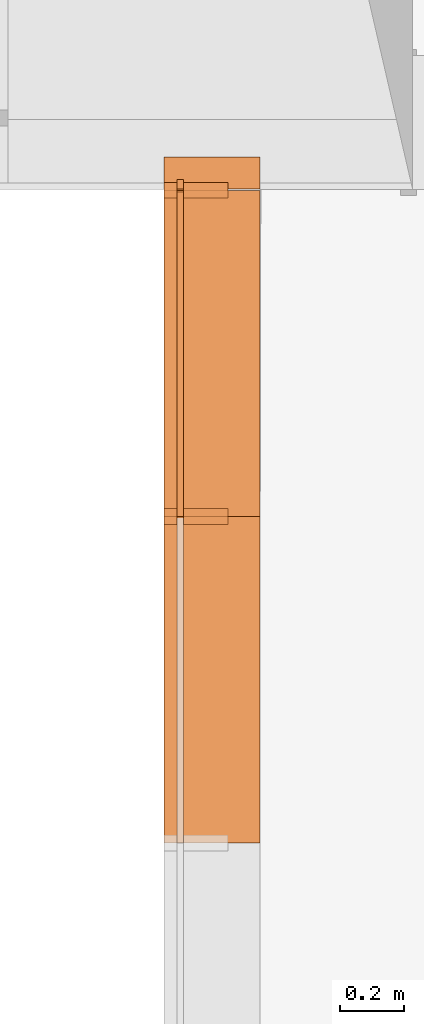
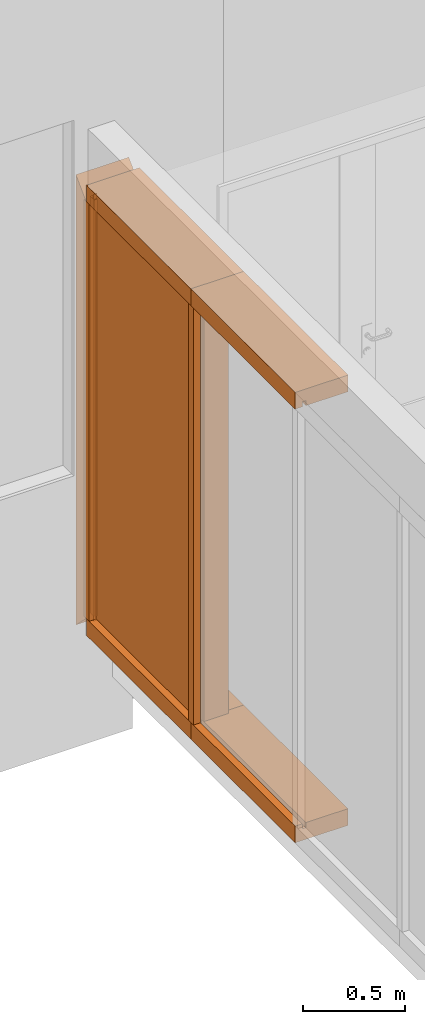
# One storey, part 190 of 194: 9 proxies, 1 element without a shape of its own.
"""IFC2X3 building model written with IfcOpenShell, lengths in millimetres."""

from ifc_helpers import new_model, entity, si_unit, converted_unit, derived_unit, money_unit, direction, frame, origin_with_axes, place, context, subcontext, project, spatial, polyline, outline, extrude, clip, halfspace, material, material_list, type_object, element, aggregate, save


model = new_model("IFC2X3")

# Units and contexts
model_context = context("Model", 3, precision=1e-05, world=origin_with_axes(), true_north=direction((0.0, 1.0)))
body_context = subcontext(model_context, "Body", "Model", "MODEL_VIEW")
ifc_project = project(units=[si_unit("LENGTHUNIT", "METRE", prefix="MILLI"), si_unit("AREAUNIT", "SQUARE_METRE"), si_unit("VOLUMEUNIT", "CUBIC_METRE"), converted_unit("PLANEANGLEUNIT", "DEGREE", entity("IfcPlaneAngleMeasure", 0.0174532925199), si_unit("PLANEANGLEUNIT", "RADIAN"), dimensions=[0, 0, 0, 0, 0, 0, 0]), si_unit("SOLIDANGLEUNIT", "STERADIAN"), money_unit("EUR"), converted_unit("TIMEUNIT", "Year", entity("IfcTimeMeasure", 31556926.0), si_unit("TIMEUNIT", "SECOND"), dimensions=[0, 0, 1, 0, 0, 0, 0]), si_unit("MASSUNIT", "GRAM", prefix="KILO"), si_unit("THERMODYNAMICTEMPERATUREUNIT", "DEGREE_CELSIUS"), si_unit("LUMINOUSINTENSITYUNIT", "LUMEN"), si_unit("ENERGYUNIT", "JOULE", prefix="MEGA"), derived_unit("THERMALCONDUCTANCEUNIT", [(si_unit("POWERUNIT", "WATT"), 1), (si_unit("LENGTHUNIT", "METRE"), -1), (si_unit("THERMODYNAMICTEMPERATUREUNIT", "KELVIN"), -1)]), derived_unit("SPECIFICHEATCAPACITYUNIT", [(si_unit("ENERGYUNIT", "JOULE"), 1), (si_unit("MASSUNIT", "GRAM", prefix="KILO"), -1), (si_unit("THERMODYNAMICTEMPERATUREUNIT", "KELVIN"), -1)]), derived_unit("MASSDENSITYUNIT", [(si_unit("MASSUNIT", "GRAM", prefix="KILO"), 1), (si_unit("VOLUMEUNIT", "CUBIC_METRE"), -1)])], contexts=[model_context])

# Site, building, storey
site_placement = place(None, origin_with_axes())
site = spatial("IfcSite", under=ifc_project, at=site_placement, Name="Site", CompositionType="ELEMENT")
building_placement = place(site_placement, origin_with_axes())
building = spatial("IfcBuilding", under=site, at=building_placement, Name="Building", CompositionType="ELEMENT")
storey_placement = place(building_placement, frame((0.0, 0.0, 3000.0), z_axis=(0.0, 0.0, 1.0), x_axis=(1.0, 0.0, 0.0)))
storey = spatial("IfcBuildingStorey", under=building, at=storey_placement, Name="2 KORRUS", CompositionType="ELEMENT", Elevation=3000.0)

# Curtain wall, proxies
curtain_wall_type = type_object("IfcCurtainWallType", Name="KS-1", PredefinedType="NOTDEFINED")
curtain_wall_placement = place(storey_placement, frame((37274.747914, 58173.7882895, -0.000166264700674), z_axis=(0.0, 0.0, 1.0), x_axis=(1.0, 0.0, 0.0)))
curtain_wall = element("IfcCurtainWall", 1, at=curtain_wall_placement, inside=storey, type_object=curtain_wall_type, Name="KS")
ifc_material_1 = material(Name="Klaas (1)")
building_element_proxy_type_1 = type_object("IfcBuildingElementProxyType", Name="Panel-Main-399", PredefinedType="NOTDEFINED")
proxy_1_placement = place(curtain_wall_placement, frame((0.0, 0.0, 1250.00017528), z_axis=(0.0, 0.0, 1.0), x_axis=(0.0, -1.0, 0.0)))
proxy_1 = element("IfcBuildingElementProxy", 2, at=proxy_1_placement, type_object=building_element_proxy_type_1, material=ifc_material_1, Name="Klaas (1);  Objekti nimi: Built-in CW Panel", context=body_context, shape_type="SweptSolid", body=[
    extrude(outline(polyline([(-512.500017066, -1280.00017528), (512.499994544, -1280.00017528), (512.499994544, -1250.0001807), (517.499999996, -1250.0001807), (517.499999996, 1250.0001807), (512.499994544, 1250.0001807), (512.499994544, 1280.00017528), (-512.49997892, 1280.00017528), (-512.49997892, 1250.0001807), (-517.499984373, 1250.0001807), (-517.499984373, -1250.0001807), (-512.500017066, -1250.0001807), (-512.500017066, -1280.00017528)])), frame((0.0, -9.99999999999, 0.0), z_axis=(0.0, 1.0, 0.0), x_axis=(1.0, 0.0, 0.0)), (0.0, 0.0, 1.0), 20.0),
])
building_element_proxy_type_2 = type_object("IfcBuildingElementProxyType", Name="Panel-Main-400", PredefinedType="NOTDEFINED")
proxy_2_placement = place(curtain_wall_placement, frame((0.0, 514.520520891, 1250.00017528), z_axis=(0.0, 0.0, 1.0), x_axis=(0.0, -1.0, 0.0)))
proxy_2 = element("IfcBuildingElementProxy", 3, at=proxy_2_placement, type_object=building_element_proxy_type_2, material=ifc_material_1, Name="Klaas (1);  Objekti nimi: Built-in CW Panel", context=body_context, shape_type="SweptSolid", body=[
    extrude(outline(polyline([(-2.02051222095, -1280.00017528), (2.02051544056, -1280.00017528), (2.02051544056, -1250.0001807), (7.02052089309, -1250.0001807), (7.02052089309, 1250.0001807), (2.02051544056, 1250.0001807), (2.02051544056, 1280.00017528), (-2.02051222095, 1280.00017528), (-2.02055036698, 1250.0001807), (-32.0205067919, 1250.0001807), (-32.0205067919, -1250.0001807), (-2.02051222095, -1250.0001807), (-2.02051222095, -1280.00017528)])), frame((0.0, -9.99999999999, 0.0), z_axis=(0.0, 1.0, 0.0), x_axis=(1.0, 0.0, 0.0)), (0.0, 0.0, 1.0), 20.0),
])
ifc_material_2 = material(Name="Alumiinium (1)")
building_element_proxy_type_3 = type_object("IfcBuildingElementProxyType", Name="Frame-Bnd-294", PredefinedType="NOTDEFINED")
proxy_3_placement = place(curtain_wall_placement, frame((0.0, -512.499999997, 2500.00035055), z_axis=(0.0, 1.0, 0.0), x_axis=(0.0, 0.0, 1.0)))
proxy_3 = element("IfcBuildingElementProxy", 4, at=proxy_3_placement, type_object=building_element_proxy_type_3, material=ifc_material_2, Name="Alumiinium (1);  Objekti nimi: Built-in Frame", context=body_context, shape_type="SweptSolid", body=[
    extrude(outline(polyline([(9.99999999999, -30.0), (-9.99999999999, -30.0), (-9.99999999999, 0.0), (-50.0, 0.0), (-50.0, -100.0), (250.0, -100.0), (250.0, 0.0), (9.99999999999, 0.0), (9.99999999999, -30.0)])), frame((0.0, 0.0, 0.0), z_axis=(0.0, 0.0, 1.0), x_axis=(0.0, 1.0, 0.0)), (0.0, 0.0, 1.0), 1025.0),
])
building_element_proxy_type_4 = type_object("IfcBuildingElementProxyType", Name="Frame-Bnd-292", PredefinedType="NOTDEFINED")
proxy_4_placement = place(curtain_wall_placement, frame((0.0, 516.541041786, 0.0), z_axis=(0.0, 0.0, 1.0), x_axis=(0.0, -1.0, 0.0)))
proxy_4 = element("IfcBuildingElementProxy", 5, at=proxy_4_placement, type_object=building_element_proxy_type_4, material=ifc_material_2, Name="Alumiinium (1);  Objekti nimi: Built-in Frame", context=body_context, shape_type="Clipping", body=[
    clip(clip(extrude(outline(polyline([(9.99999999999, 29.9999999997), (9.99999999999, 0.0), (250.0, 0.0), (250.0, 100.0), (-50.0, 100.0), (-50.0, 0.0), (-9.99999999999, 0.0), (-9.99999999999, 29.9999999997), (9.99999999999, 29.9999999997)])), frame((0.0, 0.0, -100.0), z_axis=(0.0, 0.0, 1.0), x_axis=(0.0, 1.0, 0.0)), (0.0, 0.0, 1.0), 2700.00035055), halfspace(frame((1250.00017528, 0.0, 1250.00017528), z_axis=(-0.707106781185, 0.0, -0.707106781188), x_axis=(0.0, 1.0, 0.0)), True)), halfspace(frame((1.85952919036e-10, 0.0, -1.85952919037e-10), z_axis=(-0.707106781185, 0.0, 0.707106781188), x_axis=(0.0, -1.0, 0.0)), True)),
])
building_element_proxy_type_5 = type_object("IfcBuildingElementProxyType", Name="Frame-Bnd-289", PredefinedType="NOTDEFINED")
proxy_5_placement = place(curtain_wall_placement, frame((0.0, -1537.50000001, 0.0), z_axis=(0.0, 1.0, 0.0), x_axis=(0.0, 0.0, 1.0)))
proxy_5 = element("IfcBuildingElementProxy", 6, at=proxy_5_placement, type_object=building_element_proxy_type_5, material=ifc_material_2, Name="Alumiinium (1);  Objekti nimi: Built-in Frame", context=body_context, shape_type="SweptSolid", body=[
    extrude(outline(polyline([(9.99999999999, 30.0), (9.99999999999, 0.0), (250.0, 0.0), (250.0, 100.0), (-50.0, 100.0), (-50.0, 0.0), (-9.99999999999, 0.0), (-9.99999999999, 30.0), (9.99999999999, 30.0)])), frame((0.0, 0.0, 0.0), z_axis=(0.0, 0.0, 1.0), x_axis=(0.0, 1.0, 0.0)), (0.0, 0.0, 1.0), 1025.00000001),
])
building_element_proxy_type_6 = type_object("IfcBuildingElementProxyType", Name="Frame-Bnd-290", PredefinedType="NOTDEFINED")
proxy_6_placement = place(curtain_wall_placement, frame((0.0, -512.499999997, 0.0), z_axis=(0.0, 1.0, 0.0), x_axis=(0.0, 0.0, 1.0)))
proxy_6 = element("IfcBuildingElementProxy", 7, at=proxy_6_placement, type_object=building_element_proxy_type_6, material=ifc_material_2, Name="Alumiinium (1);  Objekti nimi: Built-in Frame", context=body_context, shape_type="SweptSolid", body=[
    extrude(outline(polyline([(9.99999999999, 30.0), (9.99999999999, 0.0), (250.0, 0.0), (250.0, 100.0), (-50.0, 100.0), (-50.0, 0.0), (-9.99999999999, 0.0), (-9.99999999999, 30.0), (9.99999999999, 30.0)])), frame((0.0, 0.0, 0.0), z_axis=(0.0, 0.0, 1.0), x_axis=(0.0, 1.0, 0.0)), (0.0, 0.0, 1.0), 1025.0),
])
ifc_material_list = material_list([ifc_material_2, ifc_material_2])
building_element_proxy_type_7 = type_object("IfcBuildingElementProxyType", Name="Frame-Mll-561", PredefinedType="NOTDEFINED")
proxy_7_placement = place(curtain_wall_placement, frame((0.0, -512.499999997, 0.0), z_axis=(0.0, 0.0, 1.0), x_axis=(0.0, -1.0, 0.0)))
proxy_7 = element("IfcBuildingElementProxy", 8, at=proxy_7_placement, type_object=building_element_proxy_type_7, material=ifc_material_list, Name="Alumiinium (1);  Objekti nimi: Frame 22", context=body_context, shape_type="SweptSolid", body=[
    extrude(outline(polyline([(9.99999999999, -24.9999999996), (150.0, -24.9999999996), (150.0, 24.9999999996), (9.99999999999, 24.9999999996), (9.99999999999, -24.9999999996)])), frame((0.0, 0.0, 0.0), z_axis=(0.0, 0.0, 1.0), x_axis=(0.0, 1.0, 0.0)), (0.0, 0.0, 1.0), 2500.00035055),
    extrude(outline(polyline([(-9.99999999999, 24.9999999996), (-50.0, 24.9999999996), (-50.0, -24.9999999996), (-9.99999999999, -24.9999999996), (-9.99999999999, 24.9999999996)])), frame((0.0, 0.0, 0.0), z_axis=(0.0, 0.0, 1.0), x_axis=(0.0, 1.0, 0.0)), (0.0, 0.0, 1.0), 2500.00035055),
])
building_element_proxy_type_8 = type_object("IfcBuildingElementProxyType", Name="Frame-Mll-578", PredefinedType="NOTDEFINED")
proxy_8_placement = place(curtain_wall_placement, frame((0.0, 512.499999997, 0.0), z_axis=(0.0, 0.0, 1.0), x_axis=(0.0, -1.0, 0.0)))
proxy_8 = element("IfcBuildingElementProxy", 9, at=proxy_8_placement, type_object=building_element_proxy_type_8, material=ifc_material_list, Name="Alumiinium (1);  Objekti nimi: Frame 22", context=body_context, shape_type="SweptSolid", body=[
    extrude(outline(polyline([(9.99999999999, -24.9999999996), (150.0, -24.9999999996), (150.0, 24.9999999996), (9.99999999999, 24.9999999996), (9.99999999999, -24.9999999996)])), frame((0.0, 0.0, 0.0), z_axis=(0.0, 0.0, 1.0), x_axis=(0.0, 1.0, 0.0)), (0.0, 0.0, 1.0), 2500.00035055),
    extrude(outline(polyline([(-9.99999999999, 24.9999999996), (-50.0, 24.9999999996), (-50.0, -24.9999999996), (-9.99999999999, -24.9999999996), (-9.99999999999, 24.9999999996)])), frame((0.0, 0.0, 0.0), z_axis=(0.0, 0.0, 1.0), x_axis=(0.0, 1.0, 0.0)), (0.0, 0.0, 1.0), 2500.00035055),
])
building_element_proxy_type_9 = type_object("IfcBuildingElementProxyType", Name="Frame-Bnd-295", PredefinedType="NOTDEFINED")
proxy_9_placement = place(curtain_wall_placement, frame((0.0, -1537.50000001, 2500.00035055), z_axis=(0.0, 1.0, 0.0), x_axis=(0.0, 0.0, 1.0)))
proxy_9 = element("IfcBuildingElementProxy", 10, at=proxy_9_placement, type_object=building_element_proxy_type_9, material=ifc_material_2, Name="Alumiinium (1);  Objekti nimi: Built-in Frame", context=body_context, shape_type="SweptSolid", body=[
    extrude(outline(polyline([(9.99999999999, -30.0), (-9.99999999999, -30.0), (-9.99999999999, 0.0), (-50.0, 0.0), (-50.0, -100.0), (250.0, -100.0), (250.0, 0.0), (9.99999999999, 0.0), (9.99999999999, -30.0)])), frame((0.0, 0.0, 0.0), z_axis=(0.0, 0.0, 1.0), x_axis=(0.0, 1.0, 0.0)), (0.0, 0.0, 1.0), 1025.00000001),
])
aggregate(curtain_wall, [proxy_1, proxy_2, proxy_3, proxy_4, proxy_5, proxy_6, proxy_7, proxy_8, proxy_9])

save(model, "model.ifc")
